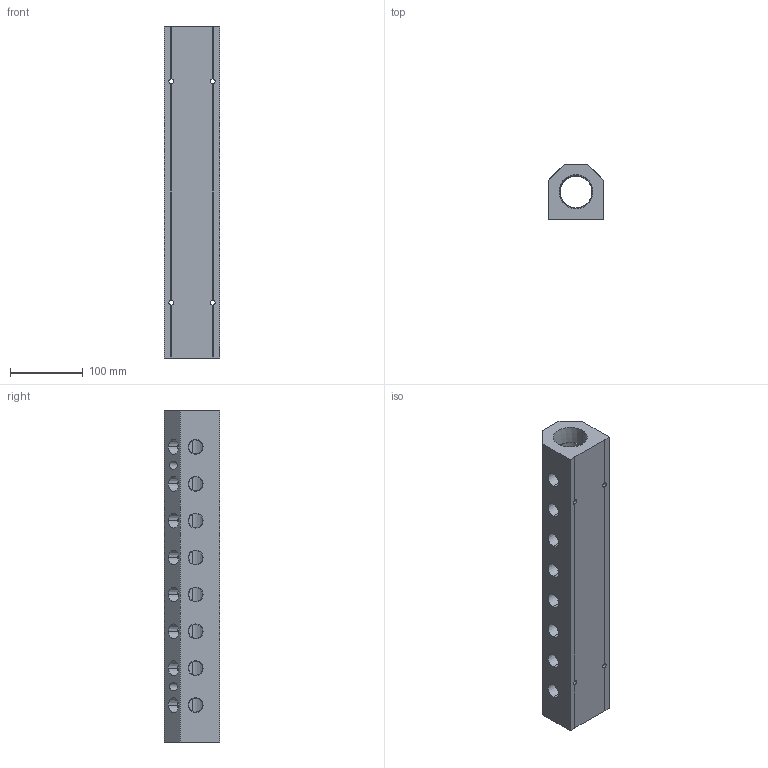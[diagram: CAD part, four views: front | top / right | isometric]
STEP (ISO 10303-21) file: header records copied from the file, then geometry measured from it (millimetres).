
FILE_DESCRIPTION (( 'STEP AP214' ), '1' );
FILE_NAME ('ALM8ABC-N8N24-457B.step', '2022-02-07T09:29:24', ( '' ), ( '' ), 'SwSTEP 2.0', 'SolidWorks 2020', '' );
FILE_SCHEMA (( 'AUTOMOTIVE_DESIGN' ));
Length unit declared in the file: millimetre
Products named in the file (1): ALM8ABC-N8N24-457B
Bounding box: 76.2 x 76.2 x 457 mm (x, y, z)
Volume: 1577280.1 mm3; surface area: 214889 mm2
Topology: 1 solids, 1 shells, 371 faces, 1057 edges, 702 vertices
Faces by surface type: plane 222, bspline 79, cone 52, cylinder 18
Entity records: 22465 total; most frequent: CARTESIAN_POINT 9882, ORIENTED_EDGE 2114, DIRECTION 1441, EDGE_CURVE 1057, VERTEX_POINT 702, VECTOR 687, LINE 687, EDGE_LOOP 443
